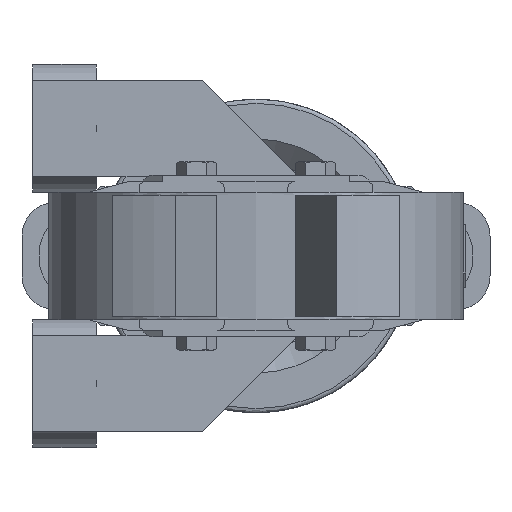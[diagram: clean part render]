
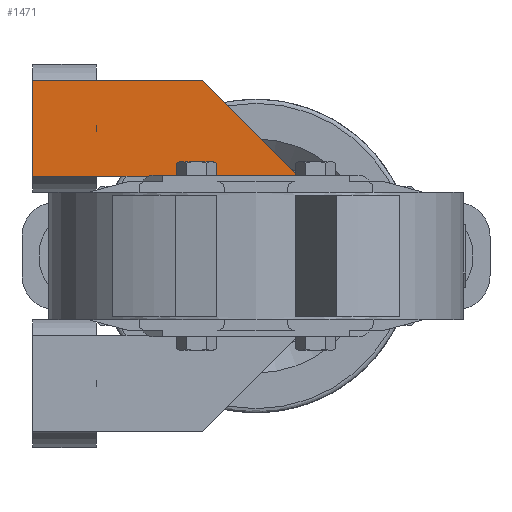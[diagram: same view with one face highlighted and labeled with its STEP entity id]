
A CAD part, front view. The second image highlights one B-rep face of the part: STEP entity #1471.
In plain terms, the highlighted planar face has unit normal (0, -1, 0).
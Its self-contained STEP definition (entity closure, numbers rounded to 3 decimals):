
#1271 = EDGE_CURVE ( 'NONE', #5256, #1347, #11153, .T. ) ;
#1347 = VERTEX_POINT ( 'NONE', #11236 ) ;
#1374 = EDGE_CURVE ( 'NONE', #1347, #5266, #11274, .T. ) ;
#1392 = ORIENTED_EDGE ( 'NONE', *, *, #1393, .F. ) ;
#1393 = EDGE_CURVE ( 'NONE', #1394, #5266, #11308, .T. ) ;
#1394 = VERTEX_POINT ( 'NONE', #11299 ) ;
#1395 = ORIENTED_EDGE ( 'NONE', *, *, #1396, .F. ) ;
#1396 = EDGE_CURVE ( 'NONE', #1397, #1394, #11298, .T. ) ;
#1397 = VERTEX_POINT ( 'NONE', #11294 ) ;
#1457 = ORIENTED_EDGE ( 'NONE', *, *, #1458, .F. ) ;
#1458 = EDGE_CURVE ( 'NONE', #1459, #1397, #11445, .T. ) ;
#1459 = VERTEX_POINT ( 'NONE', #11441 ) ;
#1460 = ORIENTED_EDGE ( 'NONE', *, *, #1462, .F. ) ;
#1462 = EDGE_CURVE ( 'NONE', #1475, #1459, #11440, .T. ) ;
#1471 = ADVANCED_FACE ( 'NONE', ( #11420 ), #11419, .T. ) ;
#1472 = EDGE_LOOP ( 'NONE', ( #1473, #1476, #1477, #1392, #1395, #1457, #1460 ) ) ;
#1473 = ORIENTED_EDGE ( 'NONE', *, *, #1474, .F. ) ;
#1474 = EDGE_CURVE ( 'NONE', #5256, #1475, #11480, .T. ) ;
#1475 = VERTEX_POINT ( 'NONE', #11476 ) ;
#1476 = ORIENTED_EDGE ( 'NONE', *, *, #1271, .T. ) ;
#1477 = ORIENTED_EDGE ( 'NONE', *, *, #1374, .T. ) ;
#5256 = VERTEX_POINT ( 'NONE', #20581 ) ;
#5266 = VERTEX_POINT ( 'NONE', #20629 ) ;
#11150 = DIRECTION ( 'NONE',  ( 0.707, 0., 0.707 ) ) ;
#11151 = VECTOR ( 'NONE', #11150, 1000. ) ;
#11152 = CARTESIAN_POINT ( 'NONE',  ( -35., 420., 35. ) ) ;
#11153 = LINE ( 'NONE', #11152, #11151 ) ;
#11236 = CARTESIAN_POINT ( 'NONE',  ( -35., 420., 35. ) ) ;
#11271 = DIRECTION ( 'NONE',  ( 1., 0., 0. ) ) ;
#11272 = VECTOR ( 'NONE', #11271, 1000. ) ;
#11273 = CARTESIAN_POINT ( 'NONE',  ( 35., 420., 35. ) ) ;
#11274 = LINE ( 'NONE', #11273, #11272 ) ;
#11294 = CARTESIAN_POINT ( 'NONE',  ( -105., 420., 82.5 ) ) ;
#11295 = DIRECTION ( 'NONE',  ( 1., 0., 0. ) ) ;
#11296 = VECTOR ( 'NONE', #11295, 1000. ) ;
#11297 = CARTESIAN_POINT ( 'NONE',  ( -25., 420., 82.5 ) ) ;
#11298 = LINE ( 'NONE', #11297, #11296 ) ;
#11299 = CARTESIAN_POINT ( 'NONE',  ( -25., 420., 82.5 ) ) ;
#11300 = DIRECTION ( 'NONE',  ( 0.707, 0., -0.707 ) ) ;
#11301 = VECTOR ( 'NONE', #11300, 1000. ) ;
#11302 = CARTESIAN_POINT ( 'NONE',  ( 22.5, 420., 35. ) ) ;
#11308 = LINE ( 'NONE', #11302, #11301 ) ;
#11415 = DIRECTION ( 'NONE',  ( 0., -1., 0. ) ) ;
#11416 = CARTESIAN_POINT ( 'NONE',  ( 22.5, 420., 82.5 ) ) ;
#11417 = AXIS2_PLACEMENT_3D ( 'NONE', #11416, #11415, #11482 ) ;
#11419 = PLANE ( 'NONE',  #11417 ) ;
#11420 = FACE_OUTER_BOUND ( 'NONE', #1472, .T. ) ;
#11437 = DIRECTION ( 'NONE',  ( -1., 0., 0. ) ) ;
#11438 = VECTOR ( 'NONE', #11437, 1000. ) ;
#11439 = CARTESIAN_POINT ( 'NONE',  ( -105., 420., 37.5 ) ) ;
#11440 = LINE ( 'NONE', #11439, #11438 ) ;
#11441 = CARTESIAN_POINT ( 'NONE',  ( -105., 420., 37.5 ) ) ;
#11442 = DIRECTION ( 'NONE',  ( 0., 0., 1. ) ) ;
#11443 = VECTOR ( 'NONE', #11442, 1000. ) ;
#11444 = CARTESIAN_POINT ( 'NONE',  ( -105., 420., 37.5 ) ) ;
#11445 = LINE ( 'NONE', #11444, #11443 ) ;
#11476 = CARTESIAN_POINT ( 'NONE',  ( -43.65, 420., 37.5 ) ) ;
#11477 = DIRECTION ( 'NONE',  ( -0.707, 0., 0.707 ) ) ;
#11478 = VECTOR ( 'NONE', #11477, 1000. ) ;
#11479 = CARTESIAN_POINT ( 'NONE',  ( -22.5, 420., 16.35 ) ) ;
#11480 = LINE ( 'NONE', #11479, #11478 ) ;
#11482 = DIRECTION ( 'NONE',  ( 0., 0., -1. ) ) ;
#20581 = CARTESIAN_POINT ( 'NONE',  ( -38.075, 420., 31.925 ) ) ;
#20629 = CARTESIAN_POINT ( 'NONE',  ( 22.5, 420., 35. ) ) ;
